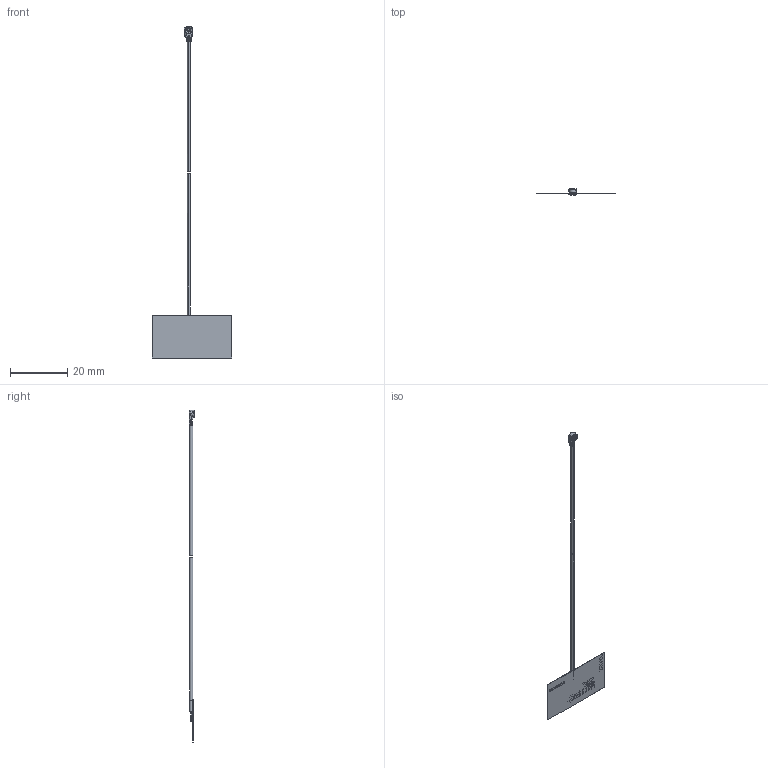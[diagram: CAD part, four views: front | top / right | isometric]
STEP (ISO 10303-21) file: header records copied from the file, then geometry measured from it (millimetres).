
FILE_DESCRIPTION((''),'2;1');
FILE_NAME('9003034F0-AA10LXXXX_ASM','2024-04-18T11:08:47',('ycollin'),(''),'CREO PARAMETRIC BY PTC INC, 2023072','CREO PARAMETRIC BY PTC INC, 2023072','');
FILE_SCHEMA(('CONFIG_CONTROL_DESIGN'));
Length unit declared in the file: millimetre
Products named in the file (1): 9003034F0-AA10LXXXX_ASM
Bounding box: 28 x 2.1 x 116.34 mm (x, y, z)
Volume: 112.6 mm3; surface area: 1270.8 mm2
Topology: 1 solids, 2 shells, 427 faces, 1458 edges, 1088 vertices
Faces by surface type: plane 266, cylinder 90, extrusion 25, cone 22, bspline 13, torus 9, sphere 2
Entity records: 17713 total; most frequent: CARTESIAN_POINT 5347, ORIENTED_EDGE 2902, DIRECTION 2068, EDGE_CURVE 1454, VERTEX_POINT 1088, VECTOR 930, LINE 905, AXIS2_PLACEMENT_3D 569
